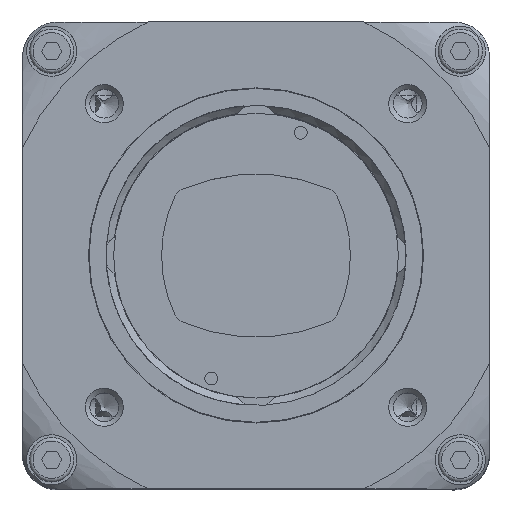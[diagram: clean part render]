
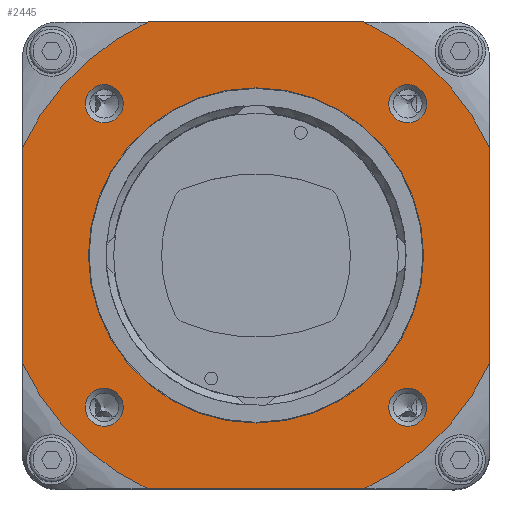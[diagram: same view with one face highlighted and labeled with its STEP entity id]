
A CAD part, top view. The second image highlights one B-rep face of the part: STEP entity #2445.
In plain terms, the highlighted planar face has unit normal (0, 0, 1).
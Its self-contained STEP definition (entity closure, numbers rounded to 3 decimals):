
#2445 = ADVANCED_FACE( '', ( #6451, #6452, #6453, #6454, #6455, #6456 ), #6457, .F. );
#6451 = FACE_BOUND( '', #12761, .T. );
#6452 = FACE_BOUND( '', #12762, .T. );
#6453 = FACE_BOUND( '', #12763, .T. );
#6454 = FACE_BOUND( '', #12764, .T. );
#6455 = FACE_BOUND( '', #12765, .T. );
#6456 = FACE_OUTER_BOUND( '', #12766, .T. );
#6457 = PLANE( '', #12767 );
#12761 = EDGE_LOOP( '', ( #22589 ) );
#12762 = EDGE_LOOP( '', ( #22590 ) );
#12763 = EDGE_LOOP( '', ( #22591 ) );
#12764 = EDGE_LOOP( '', ( #22592 ) );
#12765 = EDGE_LOOP( '', ( #22593 ) );
#12766 = EDGE_LOOP( '', ( #22594, #22595, #22596, #22597, #22598, #22599, #22600, #22601 ) );
#12767 = AXIS2_PLACEMENT_3D( '', #22602, #22603, #22604 );
#22589 = ORIENTED_EDGE( '', *, *, #35580, .T. );
#22590 = ORIENTED_EDGE( '', *, *, #35581, .T. );
#22591 = ORIENTED_EDGE( '', *, *, #35582, .T. );
#22592 = ORIENTED_EDGE( '', *, *, #35583, .T. );
#22593 = ORIENTED_EDGE( '', *, *, #35492, .T. );
#22594 = ORIENTED_EDGE( '', *, *, #35584, .F. );
#22595 = ORIENTED_EDGE( '', *, *, #34794, .T. );
#22596 = ORIENTED_EDGE( '', *, *, #35585, .F. );
#22597 = ORIENTED_EDGE( '', *, *, #35586, .T. );
#22598 = ORIENTED_EDGE( '', *, *, #35587, .F. );
#22599 = ORIENTED_EDGE( '', *, *, #35588, .T. );
#22600 = ORIENTED_EDGE( '', *, *, #35589, .F. );
#22601 = ORIENTED_EDGE( '', *, *, #35590, .T. );
#22602 = CARTESIAN_POINT( '', ( 0., 0., 12.3 ) );
#22603 = DIRECTION( '', ( 0., 0., -1. ) );
#22604 = DIRECTION( '', ( -1., 0., 0. ) );
#34794 = EDGE_CURVE( '', #40623, #40624, #40625, .T. );
#35492 = EDGE_CURVE( '', #41822, #41822, #41823, .T. );
#35580 = EDGE_CURVE( '', #41961, #41961, #41962, .T. );
#35581 = EDGE_CURVE( '', #41963, #41963, #41964, .T. );
#35582 = EDGE_CURVE( '', #41965, #41965, #41966, .T. );
#35583 = EDGE_CURVE( '', #41967, #41967, #41968, .T. );
#35584 = EDGE_CURVE( '', #40623, #41969, #41970, .T. );
#35585 = EDGE_CURVE( '', #41971, #40624, #41972, .T. );
#35586 = EDGE_CURVE( '', #41971, #41973, #41974, .T. );
#35587 = EDGE_CURVE( '', #41975, #41973, #41976, .T. );
#35588 = EDGE_CURVE( '', #41975, #41977, #41978, .T. );
#35589 = EDGE_CURVE( '', #41979, #41977, #41980, .T. );
#35590 = EDGE_CURVE( '', #41979, #41969, #41981, .T. );
#40623 = VERTEX_POINT( '', #49264 );
#40624 = VERTEX_POINT( '', #49265 );
#40625 = CIRCLE( '', #49266, 22.031 );
#41822 = VERTEX_POINT( '', #51091 );
#41823 = CIRCLE( '', #51092, 14.35 );
#41961 = VERTEX_POINT( '', #51259 );
#41962 = CIRCLE( '', #51260, 1.63 );
#41963 = VERTEX_POINT( '', #51261 );
#41964 = CIRCLE( '', #51262, 1.63 );
#41965 = VERTEX_POINT( '', #51263 );
#41966 = CIRCLE( '', #51264, 1.63 );
#41967 = VERTEX_POINT( '', #51265 );
#41968 = CIRCLE( '', #51266, 1.63 );
#41969 = VERTEX_POINT( '', #51267 );
#41970 = LINE( '', #51268, #51269 );
#41971 = VERTEX_POINT( '', #51270 );
#41972 = LINE( '', #51271, #51272 );
#41973 = VERTEX_POINT( '', #51273 );
#41974 = CIRCLE( '', #51274, 22.031 );
#41975 = VERTEX_POINT( '', #51275 );
#41976 = LINE( '', #51276, #51277 );
#41977 = VERTEX_POINT( '', #51278 );
#41978 = CIRCLE( '', #51279, 22.031 );
#41979 = VERTEX_POINT( '', #51280 );
#41980 = LINE( '', #51281, #51282 );
#41981 = CIRCLE( '', #51283, 22.031 );
#49264 = CARTESIAN_POINT( '', ( -9.238, 20., 12.3 ) );
#49265 = CARTESIAN_POINT( '', ( -20., 9.238, 12.3 ) );
#49266 = AXIS2_PLACEMENT_3D( '', #60779, #60780, #60781 );
#51091 = CARTESIAN_POINT( '', ( 14.35, 0., 12.3 ) );
#51092 = AXIS2_PLACEMENT_3D( '', #61806, #61807, #61808 );
#51259 = CARTESIAN_POINT( '', ( 11.371, -13., 12.3 ) );
#51260 = AXIS2_PLACEMENT_3D( '', #61937, #61938, #61939 );
#51261 = CARTESIAN_POINT( '', ( -14.63, -13., 12.3 ) );
#51262 = AXIS2_PLACEMENT_3D( '', #61940, #61941, #61942 );
#51263 = CARTESIAN_POINT( '', ( -14.63, 13., 12.3 ) );
#51264 = AXIS2_PLACEMENT_3D( '', #61943, #61944, #61945 );
#51265 = CARTESIAN_POINT( '', ( 11.371, 13., 12.3 ) );
#51266 = AXIS2_PLACEMENT_3D( '', #61946, #61947, #61948 );
#51267 = CARTESIAN_POINT( '', ( 9.238, 20., 12.3 ) );
#51268 = CARTESIAN_POINT( '', ( -20., 20., 12.3 ) );
#51269 = VECTOR( '', #61949, 1000. );
#51270 = CARTESIAN_POINT( '', ( -20., -9.238, 12.3 ) );
#51271 = CARTESIAN_POINT( '', ( -20., -20., 12.3 ) );
#51272 = VECTOR( '', #61950, 1000. );
#51273 = CARTESIAN_POINT( '', ( -9.238, -20., 12.3 ) );
#51274 = AXIS2_PLACEMENT_3D( '', #61951, #61952, #61953 );
#51275 = CARTESIAN_POINT( '', ( 9.238, -20., 12.3 ) );
#51276 = CARTESIAN_POINT( '', ( 20., -20., 12.3 ) );
#51277 = VECTOR( '', #61954, 1000. );
#51278 = CARTESIAN_POINT( '', ( 20., -9.238, 12.3 ) );
#51279 = AXIS2_PLACEMENT_3D( '', #61955, #61956, #61957 );
#51280 = CARTESIAN_POINT( '', ( 20., 9.238, 12.3 ) );
#51281 = CARTESIAN_POINT( '', ( 20., 20., 12.3 ) );
#51282 = VECTOR( '', #61958, 1000. );
#51283 = AXIS2_PLACEMENT_3D( '', #61959, #61960, #61961 );
#60779 = CARTESIAN_POINT( '', ( 0., 0., 12.3 ) );
#60780 = DIRECTION( '', ( 0., 0., 1. ) );
#60781 = DIRECTION( '', ( 1., 0., 0. ) );
#61806 = CARTESIAN_POINT( '', ( 0., 0., 12.3 ) );
#61807 = DIRECTION( '', ( 0., 0., -1. ) );
#61808 = DIRECTION( '', ( 1., 0., 0. ) );
#61937 = CARTESIAN_POINT( '', ( 13., -13., 12.3 ) );
#61938 = DIRECTION( '', ( 0., 0., -1. ) );
#61939 = DIRECTION( '', ( -1., 0., 0. ) );
#61940 = CARTESIAN_POINT( '', ( -13., -13., 12.3 ) );
#61941 = DIRECTION( '', ( 0., 0., -1. ) );
#61942 = DIRECTION( '', ( -1., 0., 0. ) );
#61943 = CARTESIAN_POINT( '', ( -13., 13., 12.3 ) );
#61944 = DIRECTION( '', ( 0., 0., -1. ) );
#61945 = DIRECTION( '', ( -1., 0., 0. ) );
#61946 = CARTESIAN_POINT( '', ( 13., 13., 12.3 ) );
#61947 = DIRECTION( '', ( 0., 0., -1. ) );
#61948 = DIRECTION( '', ( -1., 0., 0. ) );
#61949 = DIRECTION( '', ( 1., 0., 0. ) );
#61950 = DIRECTION( '', ( 0., 1., 0. ) );
#61951 = CARTESIAN_POINT( '', ( 0., 0., 12.3 ) );
#61952 = DIRECTION( '', ( 0., 0., 1. ) );
#61953 = DIRECTION( '', ( 1., 0., 0. ) );
#61954 = DIRECTION( '', ( -1., 0., 0. ) );
#61955 = CARTESIAN_POINT( '', ( 0., 0., 12.3 ) );
#61956 = DIRECTION( '', ( 0., 0., 1. ) );
#61957 = DIRECTION( '', ( 1., 0., 0. ) );
#61958 = DIRECTION( '', ( 0., -1., 0. ) );
#61959 = CARTESIAN_POINT( '', ( 0., 0., 12.3 ) );
#61960 = DIRECTION( '', ( 0., 0., 1. ) );
#61961 = DIRECTION( '', ( 1., 0., 0. ) );
